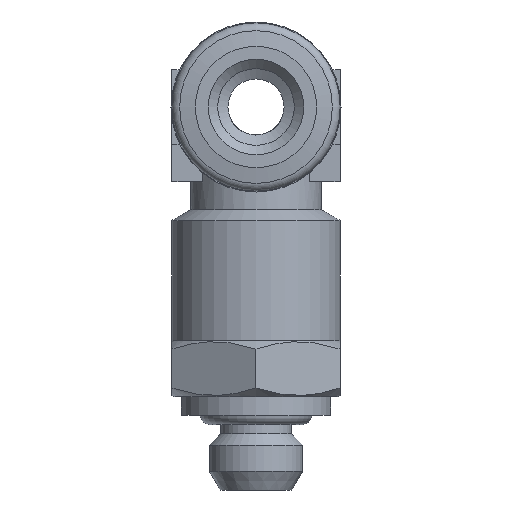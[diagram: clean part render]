
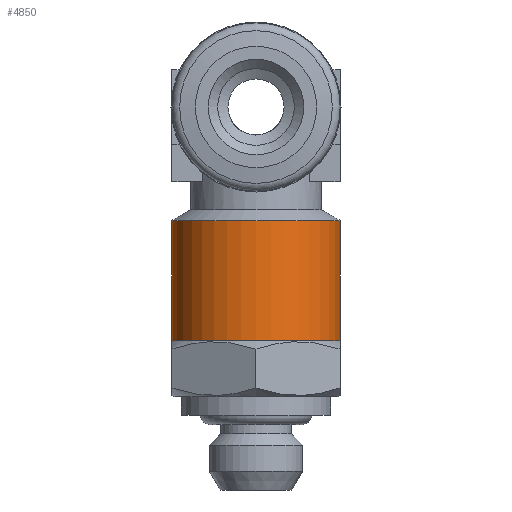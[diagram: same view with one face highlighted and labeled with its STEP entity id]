
A CAD part, left-side view. The second image highlights one B-rep face of the part: STEP entity #4850.
In plain terms, the highlighted cylindrical face has radius 4.5 mm (diameter 9 mm), a full revolution.
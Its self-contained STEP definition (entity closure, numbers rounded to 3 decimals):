
#1060=CYLINDRICAL_SURFACE('',#4695,4.5);
#1322=ORIENTED_EDGE('',*,*,#1759,.T.);
#1323=ORIENTED_EDGE('',*,*,#1758,.F.);
#1490=CIRCLE('',#4694,4.5);
#1491=CIRCLE('',#4696,4.5);
#1613=VERTEX_POINT('',#4415);
#1614=VERTEX_POINT('',#4418);
#1758=EDGE_CURVE('',#1613,#1613,#1490,.T.);
#1759=EDGE_CURVE('',#1614,#1614,#1491,.T.);
#1923=EDGE_LOOP('',(#1322));
#1924=EDGE_LOOP('',(#1323));
#2115=FACE_BOUND('',#1923,.T.);
#2116=FACE_BOUND('',#1924,.T.);
#3214=DIRECTION('',(0.,1.,0.));
#3215=DIRECTION('',(4.5,0.,0.));
#3216=DIRECTION('',(0.,1.,0.));
#3217=DIRECTION('',(1.,0.,0.));
#3218=DIRECTION('',(0.,1.,0.));
#3219=DIRECTION('',(4.5,0.,0.));
#4415=CARTESIAN_POINT('',(24.11,25.927,0.));
#4416=CARTESIAN_POINT('',(19.61,25.927,0.));
#4417=CARTESIAN_POINT('',(19.61,19.504,0.));
#4418=CARTESIAN_POINT('',(24.11,19.504,0.));
#4419=CARTESIAN_POINT('',(19.61,19.504,0.));
#4694=AXIS2_PLACEMENT_3D('',#4416,#3214,#3215);
#4695=AXIS2_PLACEMENT_3D('',#4417,#3216,#3217);
#4696=AXIS2_PLACEMENT_3D('',#4419,#3218,#3219);
#4850=ADVANCED_FACE('',(#2115,#2116),#1060,.T.);
